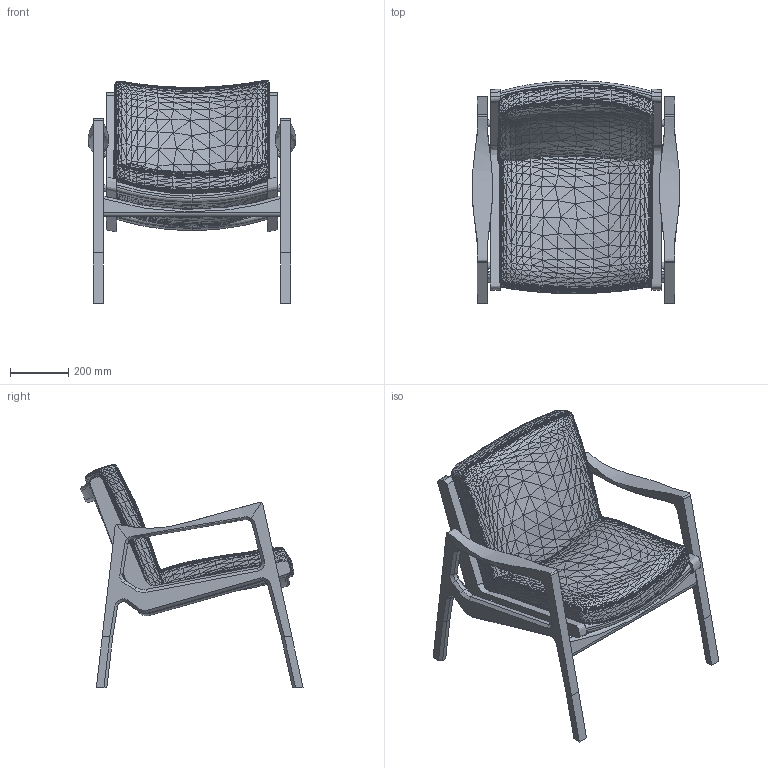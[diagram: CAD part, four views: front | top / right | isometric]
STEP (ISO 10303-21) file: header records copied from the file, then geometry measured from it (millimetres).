
FILE_DESCRIPTION(/* description */ (''),/* implementation_level */ '2;1');
FILE_NAME(/* name */ 'JA_Euvira-Lounge-Chair_3D_20230807',/* time_stamp */ '2023-08-08T10:28:10+02:00',/* author */ (''),/* organization */ (''),/* preprocessor_version */ 'ST-DEVELOPER v16.5',/* originating_system */ 'Rhino 7.31',/* authorisation */ '');
FILE_SCHEMA (('CONFIG_CONTROL_DESIGN'));
Products named in the file (1): Document
Bounding box: 714.99 x 765.01 x 769.21 mm (x, y, z)
Volume: 53627635.1 mm3; surface area: 2705834.6 mm2
Topology: 8 solids, 10 shells, 8450 faces, 12892 edges, 4452 vertices
Faces by surface type: plane 8301, bspline 90, cylinder 59
Entity records: 185304 total; most frequent: CARTESIAN_POINT 78845, ORIENTED_EDGE 25748, EDGE_CURVE 12892, B_SPLINE_CURVE_WITH_KNOTS 12742, EDGE_LOOP 8462, ADVANCED_FACE 8450, FACE_OUTER_BOUND 8450, DIRECTION 8366
